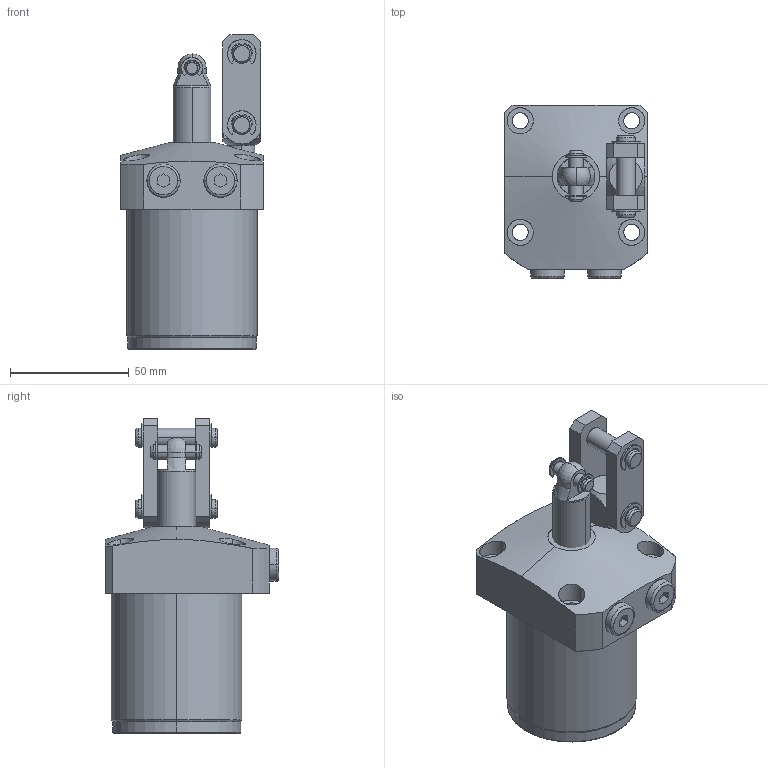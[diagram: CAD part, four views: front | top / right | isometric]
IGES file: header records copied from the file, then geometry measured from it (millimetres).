
Start section: SolidWorks IGES file using analytic representation for surfaces
Global section: file name: C:\Documents and Settings\nijil\My Documents\Clasys1\LQ Series\55\0401-0202.IGS; native system: SolidWorks 2010; preprocessor: SolidWorks 2010; author: nijil; date: 130723.130030; units: millimetre
Bounding box: 60 x 73 x 132.5 mm (x, y, z)
Surface area: 39374.8 mm2 (no closed solid volume)
Topology: 0 solids, 0 shells, 373 faces, 5776 edges, 5771 vertices
Faces by surface type: revolution 230, bspline 143
